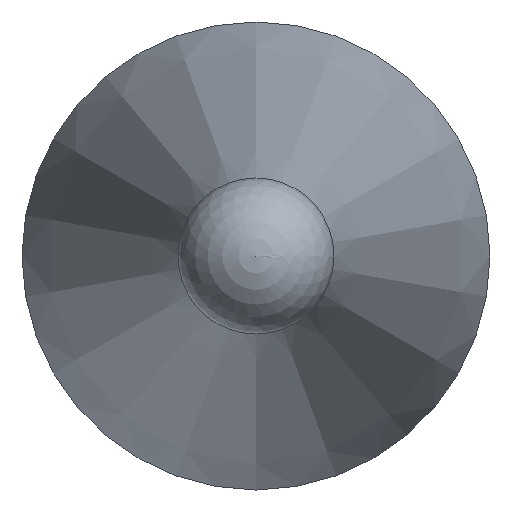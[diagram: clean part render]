
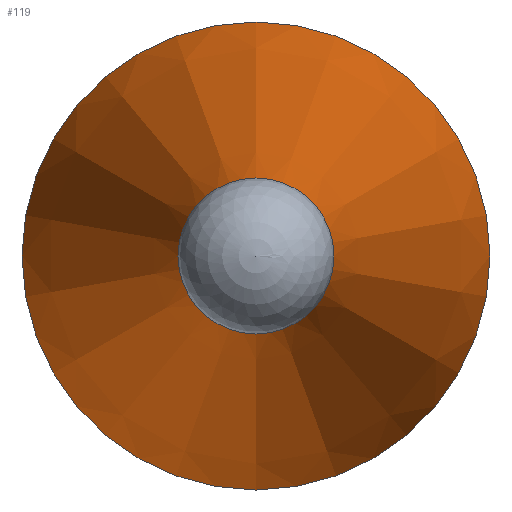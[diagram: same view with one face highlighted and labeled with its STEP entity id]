
A CAD part, left-side view. The second image highlights one B-rep face of the part: STEP entity #119.
In plain terms, the highlighted conical face has half-angle 12 degrees and reference radius 3 mm.
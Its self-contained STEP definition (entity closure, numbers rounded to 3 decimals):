
#97=CONICAL_SURFACE('',#194,3.,12.);
#106=FACE_BOUND('',#134,.T.);
#107=FACE_BOUND('',#135,.T.);
#119=ADVANCED_FACE('',(#106,#107),#97,.T.);
#134=EDGE_LOOP('',(#150));
#135=EDGE_LOOP('',(#151));
#150=ORIENTED_EDGE('',*,*,#172,.T.);
#151=ORIENTED_EDGE('',*,*,#173,.F.);
#164=VERTEX_POINT('',#249);
#165=VERTEX_POINT('',#252);
#172=EDGE_CURVE('',#164,#164,#180,.T.);
#173=EDGE_CURVE('',#165,#165,#181,.T.);
#180=CIRCLE('',#191,0.994);
#181=CIRCLE('',#193,3.);
#191=AXIS2_PLACEMENT_3D('',#248,#215,#216);
#193=AXIS2_PLACEMENT_3D('',#251,#219,#220);
#194=AXIS2_PLACEMENT_3D('',#253,#221,#222);
#215=DIRECTION('',(1.,0.,0.));
#216=DIRECTION('',(0.,0.,-1.));
#219=DIRECTION('',(1.,0.,0.));
#220=DIRECTION('',(0.,0.,-1.));
#221=DIRECTION('',(1.,0.,0.));
#222=DIRECTION('',(0.,0.,-1.));
#248=CARTESIAN_POINT('',(7901.912,6103.288,0.));
#249=CARTESIAN_POINT('',(7901.912,6103.288,-0.994));
#251=CARTESIAN_POINT('',(7911.349,6103.288,0.));
#252=CARTESIAN_POINT('',(7911.349,6103.288,-3.));
#253=CARTESIAN_POINT('',(7911.349,6103.288,0.));
